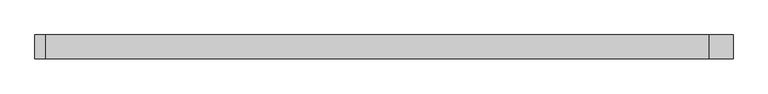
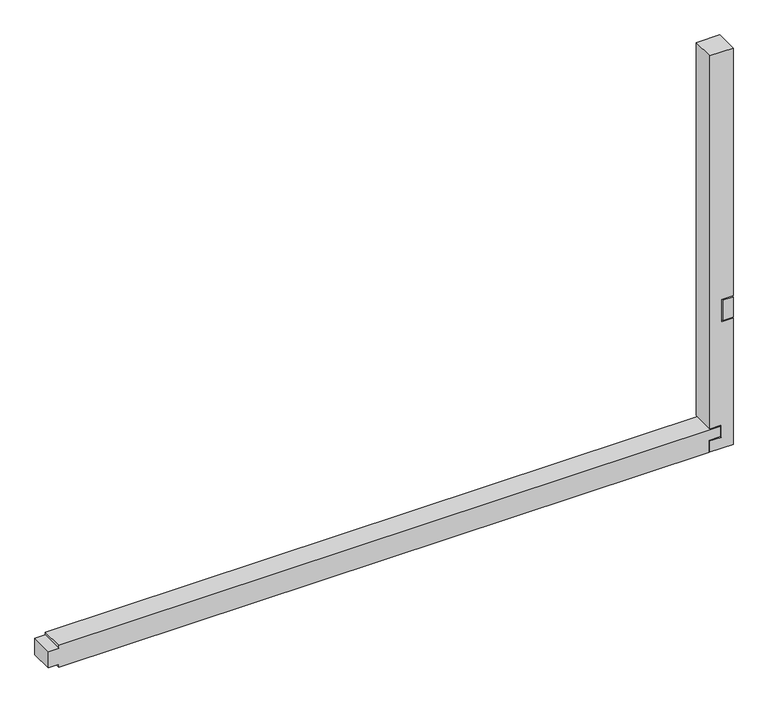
"""IFC4 building model written with IfcOpenShell, lengths in millimetres: beam geometry, palier 98*1 : palier 98*98."""

from ifc_helpers import new_model, si_unit, frame, origin, place, context, project, spatial, polyline, outline, extrude, source, transform, mapped, element, save


def beam_91eaea8e(model_context):
    return source(origin(), model_context, "Body", "SweptSolid", [
        extrude(outline(polyline([(5222.0, 11874.2466393), (5276.0, 11874.2466393), (5276.0, 11923.2466393), (5320.0, 11923.2466393), (5320.0, 9133.2466393), (5308.5, 9133.2466393), (5308.5, 9088.7466393), (5235.5, 9088.7466393), (5235.5, 9133.2466393), (5222.0, 9133.2466393), (5222.0, 11874.2466393)])), frame((0.0, 1244.024191, 0.0), z_axis=(0.0, 1.0, 0.0), x_axis=(0.0, 0.0, 1.0)), (0.0, 0.0, 1.0), 98.0443813),
        extrude(outline(polyline([(5885.6061851, 11977.2466393), (6990.0, 11977.2466393), (6990.0, 11879.2466393), (5325.0, 11879.2466393), (5325.0, 11928.2466393), (5320.0, 11928.2466393), (5271.0, 11928.2466393), (5271.0, 11879.2466393), (5222.0, 11879.2466393), (5222.0, 11977.2466393), (5785.6061851, 11977.2466393), (5785.6061851, 11928.2466393), (5885.6061851, 11928.2466393), (5885.6061851, 11977.2466393)])), frame((0.0, 1244.024191, 0.0), z_axis=(0.0, 1.0, 0.0), x_axis=(0.0, 0.0, 1.0)), (0.0, 0.0, 1.0), 98.0443813),
        extrude(outline(polyline([(11977.2466393, 1244.024191), (11933.2466393, 1244.024191), (11933.2466393, 1342.0685723), (11977.2466393, 1342.0685723), (11977.2466393, 1244.024191)])), frame((0.0, 0.0, 5790.6061851), z_axis=(0.0, 0.0, 1.0), x_axis=(1.0, 0.0, 0.0)), (0.0, 0.0, 1.0), 90.0),
    ])


if __name__ == "__main__":
    model = new_model("IFC4")
    model_context = context("Model", 3, world=origin())
    ifc_project = project(units=[si_unit("LENGTHUNIT", "METRE", prefix="MILLI")], contexts=[model_context])
    site = spatial("IfcSite", under=ifc_project)
    building = spatial("IfcBuilding", under=site)
    placement = place(None, origin())
    beam_shape = beam_91eaea8e(model_context)
    element("IfcBeam", 1, ObjectType="palier 98*1 : palier 98*98", at=placement, inside=building, context=model_context, shape_type="MappedRepresentation", body=[
        mapped(beam_shape, transform((0.0, 0.0, 0.0), x_axis=(1.0, 0.0, 0.0), y_axis=(0.0, 1.0, 0.0), z_axis=(0.0, 0.0, 1.0))),
    ])
    save(model, "model.ifc")
